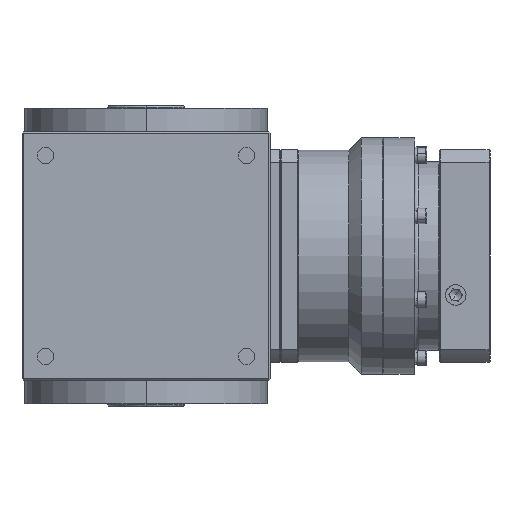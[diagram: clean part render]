
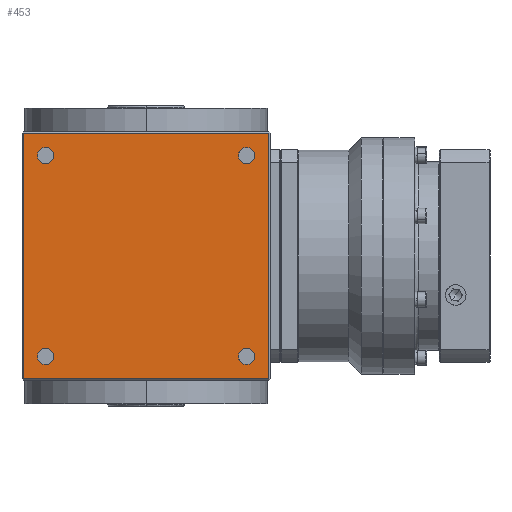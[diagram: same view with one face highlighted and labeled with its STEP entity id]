
A CAD part, left-side view. The second image highlights one B-rep face of the part: STEP entity #453.
In plain terms, the highlighted planar face has unit normal (-1, 0, 0).
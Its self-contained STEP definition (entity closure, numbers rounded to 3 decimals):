
#382 = CARTESIAN_POINT ( 'NONE',  ( -105., -85., -92. ) ) ;
#453 = ADVANCED_FACE ( 'NONE', ( #7093, #9375, #28612, #27920, #33389 ), #17297, .T. ) ;
#997 = EDGE_CURVE ( 'NONE', #11995, #28937, #3512, .T. ) ;
#1075 = CARTESIAN_POINT ( 'NONE',  ( -105., -85., -78. ) ) ;
#1222 = VECTOR ( 'NONE', #28836, 1000. ) ;
#1243 = LINE ( 'NONE', #17795, #4304 ) ;
#1595 = EDGE_CURVE ( 'NONE', #28937, #11995, #30442, .T. ) ;
#1670 = CARTESIAN_POINT ( 'NONE',  ( -105., 85., 78. ) ) ;
#1854 = DIRECTION ( 'NONE',  ( 0., 0., 1. ) ) ;
#1976 = EDGE_CURVE ( 'NONE', #18658, #6060, #1243, .T. ) ;
#2479 = AXIS2_PLACEMENT_3D ( 'NONE', #14225, #25013, #21506 ) ;
#2643 = DIRECTION ( 'NONE',  ( 0., 0., 1. ) ) ;
#2692 = CIRCLE ( 'NONE', #25790, 7. ) ;
#3298 = DIRECTION ( 'NONE',  ( 0., 0., 1. ) ) ;
#3440 = CARTESIAN_POINT ( 'NONE',  ( -105., -85., -85. ) ) ;
#3512 = CIRCLE ( 'NONE', #4660, 7. ) ;
#3725 = DIRECTION ( 'NONE',  ( 0., -1., 0. ) ) ;
#3774 = ORIENTED_EDGE ( 'NONE', *, *, #10610, .T. ) ;
#3915 = AXIS2_PLACEMENT_3D ( 'NONE', #19963, #9551, #3725 ) ;
#4304 = VECTOR ( 'NONE', #25940, 1000. ) ;
#4315 = DIRECTION ( 'NONE',  ( 0., 0., 1. ) ) ;
#4514 = AXIS2_PLACEMENT_3D ( 'NONE', #17840, #7099, #28450 ) ;
#4660 = AXIS2_PLACEMENT_3D ( 'NONE', #27155, #18669, #3298 ) ;
#4723 = ORIENTED_EDGE ( 'NONE', *, *, #1976, .T. ) ;
#5438 = VERTEX_POINT ( 'NONE', #32104 ) ;
#5667 = EDGE_CURVE ( 'NONE', #11091, #9333, #18783, .T. ) ;
#6060 = VERTEX_POINT ( 'NONE', #19326 ) ;
#6083 = DIRECTION ( 'NONE',  ( 1., 0., 0. ) ) ;
#6150 = CARTESIAN_POINT ( 'NONE',  ( -105., 85., 92. ) ) ;
#6420 = ORIENTED_EDGE ( 'NONE', *, *, #23463, .T. ) ;
#7093 = FACE_OUTER_BOUND ( 'NONE', #13640, .T. ) ;
#7099 = DIRECTION ( 'NONE',  ( 1., 0., 0. ) ) ;
#7164 = DIRECTION ( 'NONE',  ( 0., 1., 0. ) ) ;
#7488 = AXIS2_PLACEMENT_3D ( 'NONE', #3440, #6083, #27290 ) ;
#8098 = EDGE_LOOP ( 'NONE', ( #19831, #16680 ) ) ;
#8552 = DIRECTION ( 'NONE',  ( 1., 0., 0. ) ) ;
#8739 = CARTESIAN_POINT ( 'NONE',  ( -105., -104., -105. ) ) ;
#9333 = VERTEX_POINT ( 'NONE', #1670 ) ;
#9375 = FACE_BOUND ( 'NONE', #22840, .T. ) ;
#9551 = DIRECTION ( 'NONE',  ( -1., 0., 0. ) ) ;
#9809 = ORIENTED_EDGE ( 'NONE', *, *, #26467, .F. ) ;
#9828 = CARTESIAN_POINT ( 'NONE',  ( -105., 85., -78. ) ) ;
#10117 = VERTEX_POINT ( 'NONE', #382 ) ;
#10254 = CARTESIAN_POINT ( 'NONE',  ( -105., -85., 92. ) ) ;
#10610 = EDGE_CURVE ( 'NONE', #6060, #23614, #12595, .T. ) ;
#11091 = VERTEX_POINT ( 'NONE', #6150 ) ;
#11760 = AXIS2_PLACEMENT_3D ( 'NONE', #26825, #24534, #2643 ) ;
#11995 = VERTEX_POINT ( 'NONE', #10254 ) ;
#12442 = LINE ( 'NONE', #20392, #13005 ) ;
#12595 = LINE ( 'NONE', #22837, #1222 ) ;
#12953 = DIRECTION ( 'NONE',  ( 1., 0., 0. ) ) ;
#13005 = VECTOR ( 'NONE', #7164, 1000. ) ;
#13640 = EDGE_LOOP ( 'NONE', ( #29475, #4723, #3774, #9809 ) ) ;
#14125 = EDGE_CURVE ( 'NONE', #9333, #11091, #32306, .T. ) ;
#14177 = EDGE_LOOP ( 'NONE', ( #18785, #25756 ) ) ;
#14184 = DIRECTION ( 'NONE',  ( 0., 0., 1. ) ) ;
#14225 = CARTESIAN_POINT ( 'NONE',  ( -105., 85., 85. ) ) ;
#14549 = CIRCLE ( 'NONE', #11760, 7. ) ;
#14756 = ORIENTED_EDGE ( 'NONE', *, *, #24592, .T. ) ;
#15411 = DIRECTION ( 'NONE',  ( 1., 0., 0. ) ) ;
#16680 = ORIENTED_EDGE ( 'NONE', *, *, #14125, .T. ) ;
#17297 = PLANE ( 'NONE',  #3915 ) ;
#17301 = EDGE_CURVE ( 'NONE', #10117, #24345, #30048, .T. ) ;
#17795 = CARTESIAN_POINT ( 'NONE',  ( -105., 0., 104. ) ) ;
#17840 = CARTESIAN_POINT ( 'NONE',  ( -105., -85., 85. ) ) ;
#18017 = CARTESIAN_POINT ( 'NONE',  ( -105., 104., -104. ) ) ;
#18419 = VERTEX_POINT ( 'NONE', #24489 ) ;
#18658 = VERTEX_POINT ( 'NONE', #25510 ) ;
#18669 = DIRECTION ( 'NONE',  ( 1., 0., 0. ) ) ;
#18783 = CIRCLE ( 'NONE', #2479, 7. ) ;
#18785 = ORIENTED_EDGE ( 'NONE', *, *, #25456, .T. ) ;
#19226 = CARTESIAN_POINT ( 'NONE',  ( -105., -85., 78. ) ) ;
#19326 = CARTESIAN_POINT ( 'NONE',  ( -105., 104., 104. ) ) ;
#19831 = ORIENTED_EDGE ( 'NONE', *, *, #5667, .T. ) ;
#19879 = AXIS2_PLACEMENT_3D ( 'NONE', #31337, #12953, #1854 ) ;
#19963 = CARTESIAN_POINT ( 'NONE',  ( -105., 105., -105. ) ) ;
#19986 = EDGE_LOOP ( 'NONE', ( #6420, #14756 ) ) ;
#19988 = CARTESIAN_POINT ( 'NONE',  ( -105., -85., -85. ) ) ;
#20392 = CARTESIAN_POINT ( 'NONE',  ( -105., 105., -104. ) ) ;
#20447 = ORIENTED_EDGE ( 'NONE', *, *, #997, .T. ) ;
#21506 = DIRECTION ( 'NONE',  ( 0., 0., 1. ) ) ;
#21819 = VERTEX_POINT ( 'NONE', #9828 ) ;
#21965 = DIRECTION ( 'NONE',  ( 0., 0., 1. ) ) ;
#22837 = CARTESIAN_POINT ( 'NONE',  ( -105., 104., -105. ) ) ;
#22840 = EDGE_LOOP ( 'NONE', ( #20447, #29107 ) ) ;
#23463 = EDGE_CURVE ( 'NONE', #21819, #18419, #2692, .T. ) ;
#23614 = VERTEX_POINT ( 'NONE', #18017 ) ;
#24345 = VERTEX_POINT ( 'NONE', #1075 ) ;
#24489 = CARTESIAN_POINT ( 'NONE',  ( -105., 85., -92. ) ) ;
#24534 = DIRECTION ( 'NONE',  ( 1., 0., 0. ) ) ;
#24592 = EDGE_CURVE ( 'NONE', #18419, #21819, #14549, .T. ) ;
#25013 = DIRECTION ( 'NONE',  ( 1., 0., 0. ) ) ;
#25360 = CIRCLE ( 'NONE', #28147, 7. ) ;
#25456 = EDGE_CURVE ( 'NONE', #24345, #10117, #25360, .T. ) ;
#25510 = CARTESIAN_POINT ( 'NONE',  ( -105., -104., 104. ) ) ;
#25756 = ORIENTED_EDGE ( 'NONE', *, *, #17301, .T. ) ;
#25790 = AXIS2_PLACEMENT_3D ( 'NONE', #28842, #15411, #4315 ) ;
#25940 = DIRECTION ( 'NONE',  ( 0., 1., 0. ) ) ;
#26467 = EDGE_CURVE ( 'NONE', #5438, #23614, #12442, .T. ) ;
#26825 = CARTESIAN_POINT ( 'NONE',  ( -105., 85., -85. ) ) ;
#27155 = CARTESIAN_POINT ( 'NONE',  ( -105., -85., 85. ) ) ;
#27290 = DIRECTION ( 'NONE',  ( 0., 0., 1. ) ) ;
#27504 = VECTOR ( 'NONE', #14184, 1000. ) ;
#27920 = FACE_BOUND ( 'NONE', #14177, .T. ) ;
#28147 = AXIS2_PLACEMENT_3D ( 'NONE', #19988, #8552, #21965 ) ;
#28450 = DIRECTION ( 'NONE',  ( 0., 0., 1. ) ) ;
#28612 = FACE_BOUND ( 'NONE', #19986, .T. ) ;
#28836 = DIRECTION ( 'NONE',  ( 0., 0., -1. ) ) ;
#28842 = CARTESIAN_POINT ( 'NONE',  ( -105., 85., -85. ) ) ;
#28937 = VERTEX_POINT ( 'NONE', #19226 ) ;
#29107 = ORIENTED_EDGE ( 'NONE', *, *, #1595, .T. ) ;
#29475 = ORIENTED_EDGE ( 'NONE', *, *, #32006, .T. ) ;
#30048 = CIRCLE ( 'NONE', #7488, 7. ) ;
#30442 = CIRCLE ( 'NONE', #4514, 7. ) ;
#31337 = CARTESIAN_POINT ( 'NONE',  ( -105., 85., 85. ) ) ;
#32006 = EDGE_CURVE ( 'NONE', #5438, #18658, #32762, .T. ) ;
#32104 = CARTESIAN_POINT ( 'NONE',  ( -105., -104., -104. ) ) ;
#32306 = CIRCLE ( 'NONE', #19879, 7. ) ;
#32762 = LINE ( 'NONE', #8739, #27504 ) ;
#33389 = FACE_BOUND ( 'NONE', #8098, .T. ) ;
